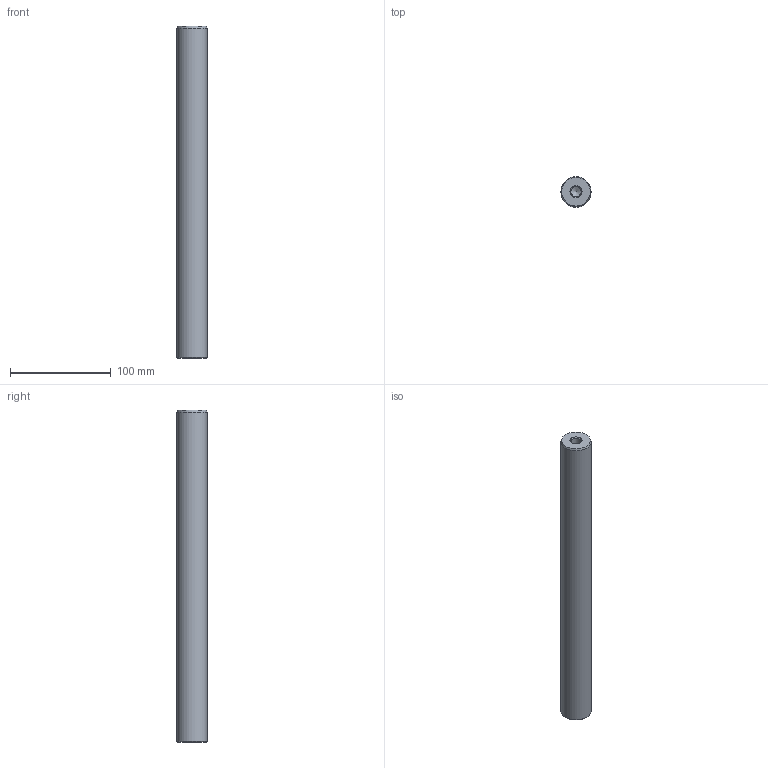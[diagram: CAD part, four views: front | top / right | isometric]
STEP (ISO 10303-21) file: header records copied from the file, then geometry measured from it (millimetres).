
FILE_DESCRIPTION( ( 'STEP AP214' ), '1' );
FILE_NAME( 'U:/Etudes/Top Solid/BIBLIO 3D AVM/STEP/G_GUIDAGE/Accessoires/Colonnes/Ø30x330.step', '2007-06-18T12:24:07', ( ' ' ), ( ' ' ), 'XStep 1.0', ' ', ' ' );
FILE_SCHEMA( ( 'automotive_design' ) );
Length unit declared in the file: metre
Products named in the file (1): 1
Bounding box: 30 x 30 x 330 mm (x, y, z)
Volume: 227931.1 mm3; surface area: 34425.2 mm2
Topology: 1 solids, 1 shells, 13 faces, 27 edges, 16 vertices
Faces by surface type: cone 6, cylinder 5, plane 2
Full cylindrical faces by diameter (mm): 10.106 x4, 30 x1
Entity records: 382 total; most frequent: DIRECTION 52, CARTESIAN_POINT 40, AXIS2_PLACEMENT_3D 26, EDGE_LOOP 24, ORIENTED_EDGE 24, FACE_OUTER_BOUND 18, VERTEX_POINT 14, STYLED_ITEM 13
